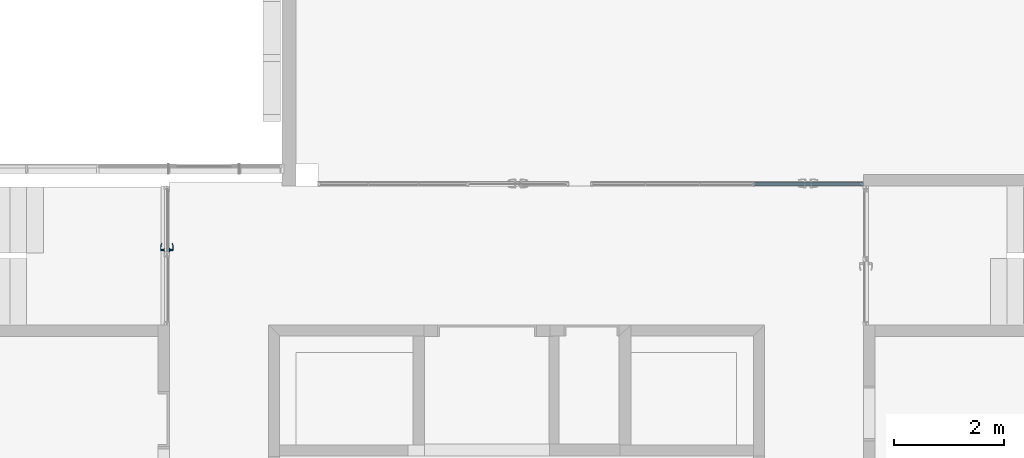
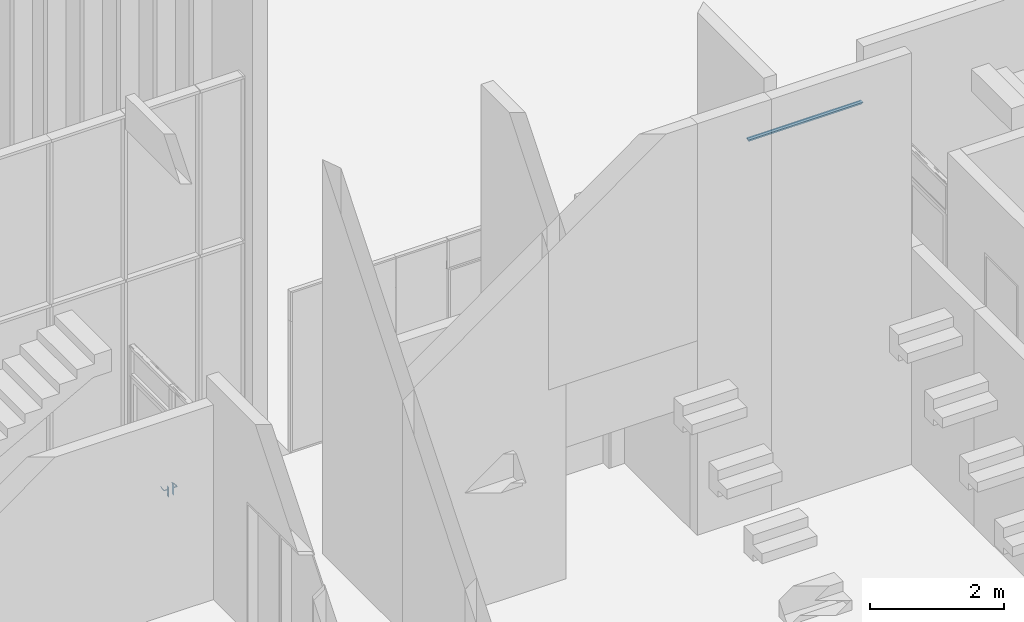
# One storey, part 49 of 62: 3 building element parts, 4 elements without a shape of their own.
"""IFC2X3 building model written with IfcOpenShell, lengths in millimetres."""

from ifc_helpers import new_model, entity, si_unit, converted_unit, derived_unit, money_unit, direction, frame, origin_with_axes, place, context, subcontext, project, spatial, open_shell, faceted_brep, surface_model, material, type_object, element, aggregate, save


model = new_model("IFC2X3")

# Units and contexts
model_context = context("Model", 3, precision=0.01, world=origin_with_axes(), true_north=direction((0.0, 1.0)))
body_context = subcontext(model_context, "Body", "Model", "MODEL_VIEW")
ifc_project = project(units=[si_unit("LENGTHUNIT", "METRE", prefix="MILLI"), si_unit("AREAUNIT", "SQUARE_METRE"), si_unit("VOLUMEUNIT", "CUBIC_METRE"), converted_unit("PLANEANGLEUNIT", "DEGREE", entity("IfcPlaneAngleMeasure", 0.0174532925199), si_unit("PLANEANGLEUNIT", "RADIAN"), dimensions=[0, 0, 0, 0, 0, 0, 0]), si_unit("SOLIDANGLEUNIT", "STERADIAN"), money_unit("EUR"), converted_unit("TIMEUNIT", "Year", entity("IfcTimeMeasure", 31556926.0), si_unit("TIMEUNIT", "SECOND"), dimensions=[0, 0, 1, 0, 0, 0, 0]), si_unit("MASSUNIT", "GRAM", prefix="KILO"), si_unit("THERMODYNAMICTEMPERATUREUNIT", "DEGREE_CELSIUS"), si_unit("LUMINOUSINTENSITYUNIT", "LUMEN"), si_unit("ENERGYUNIT", "JOULE", prefix="MEGA"), derived_unit("THERMALCONDUCTANCEUNIT", [(si_unit("POWERUNIT", "WATT"), 1), (si_unit("LENGTHUNIT", "METRE"), -1), (si_unit("THERMODYNAMICTEMPERATUREUNIT", "KELVIN"), -1)]), derived_unit("SPECIFICHEATCAPACITYUNIT", [(si_unit("ENERGYUNIT", "JOULE"), 1), (si_unit("MASSUNIT", "GRAM", prefix="KILO"), -1), (si_unit("THERMODYNAMICTEMPERATUREUNIT", "KELVIN"), -1)]), derived_unit("MASSDENSITYUNIT", [(si_unit("MASSUNIT", "GRAM", prefix="KILO"), 1), (si_unit("VOLUMEUNIT", "CUBIC_METRE"), -1)])], contexts=[model_context])

# Site, building, storey
site_placement = place(None, origin_with_axes())
site = spatial("IfcSite", under=ifc_project, at=site_placement, Name="Puškini 31, Narva", CompositionType="ELEMENT")
building_placement = place(site_placement, origin_with_axes())
building = spatial("IfcBuilding", under=site, at=building_placement, Name="Narva Riigigümnaasium", CompositionType="ELEMENT")
storey_placement = place(building_placement, frame((0.0, 0.0, 660.0), z_axis=(0.0, 0.0, 1.0), x_axis=(1.0, 0.0, 0.0)))
storey = spatial("IfcBuildingStorey", under=building, at=storey_placement, Name="2.korrus +0.66", CompositionType="ELEMENT", Elevation=660.0)

# Curtain wall, door, building element part
curtain_wall_type = type_object("IfcCurtainWallType", Name="Curtain Wall Type", PredefinedType="NOTDEFINED")
curtain_wall_1_placement = place(storey_placement, frame((34855.0128096, 223200.000065, -2.45869393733e-05), z_axis=(0.0, 0.0, 1.0), x_axis=(1.0, 0.0, 0.0)))
curtain_wall_1 = element("IfcCurtainWall", 1, at=curtain_wall_1_placement, inside=storey, type_object=curtain_wall_type, Name="G-SKLF-50")
door_style = type_object("IfcDoorStyle", Name="1132 x 2349 x 20", ConstructionType="NOTDEFINED", OperationType="NOTDEFINED", ParameterTakesPrecedence=False, Sizeable=False)
door_placement = place(curtain_wall_1_placement, frame((0.0, 0.0, 1200.00001229), z_axis=(0.0, 0.0, 1.0), x_axis=(4.28847155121e-06, 0.999999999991, 0.0)))
door = element("IfcDoor", 2, at=door_placement, type_object=door_style, Name="G-SKLF-50-U1", ObjectType="DOOR")
aggregate(curtain_wall_1, [door])
ifc_material_1 = material(Name="ET-07_Teras - Roostevaba")
building_element_part_1_placement = place(door_placement, origin_with_axes())
building_element_part_1 = element("IfcBuildingElementPart", 3, at=building_element_part_1_placement, material=ifc_material_1, Name="ET-07_Teras - Roostevaba", context=body_context, shape_type="SurfaceModel", body=[
    faceted_brep([(-588.500012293, 45.0, -120.000012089), (-531.500012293, 45.0, -120.000012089), (-531.500012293, 48.0, -120.000012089), (-588.500012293, 48.0, -120.000012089), (-588.500012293, 45.0, -310.000012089), (-531.500012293, 45.0, -310.000012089), (-531.500012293, 48.0, -310.000012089), (-588.500012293, 48.0, -310.000012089)], [[[0, 1, 2, 3]], [[0, 4, 5, 1]], [[1, 5, 6, 2]], [[3, 2, 6, 7]], [[4, 0, 3, 7]], [[5, 4, 7, 6]]]),
    surface_model("IfcShellBasedSurfaceModel", [(-560.000012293, 109.0, -190.000012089), (-568.660266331, 109.0, -185.000012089), (-568.660266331, 116.0, -185.000012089), (-560.000012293, 116.0, -190.000012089), (-535.000012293, 109.0, -190.000012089), (-535.000012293, 109.0, -170.000012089), (-560.000012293, 109.0, -170.000012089), (-568.660266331, 109.0, -175.000012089), (-568.660266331, 116.0, -175.000012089), (-560.000012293, 116.0, -170.000012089), (-535.000012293, 116.0, -170.000012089), (-535.000012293, 116.0, -190.000012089)], [open_shell([[[0, 1, 2, 3]], [[0, 4, 5, 6, 7, 1]], [[1, 7, 8, 2]], [[3, 2, 8, 9, 10, 11]], [[4, 0, 3, 11]], [[6, 5, 10, 9]], [[7, 6, 9, 8]]])]),
    surface_model("IfcShellBasedSurfaceModel", [(-535.000012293, 109.0, -170.000012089), (-521.901729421, 109.0, -170.39271117), (-521.596102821, 116.0, -170.39271117), (-535.000012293, 109.0, -190.000012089), (-521.901729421, 109.0, -189.607313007), (-494.890295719, 113.663544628, -171.178109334), (-535.000012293, 116.0, -170.000012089), (-535.000012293, 116.0, -190.000012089), (-495.804849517, 106.716818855, -188.821914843), (-495.804849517, 106.716818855, -171.178109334), (-494.890295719, 113.663544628, -188.821914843), (-521.596102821, 116.0, -189.607313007), (-470.006268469, 102.167832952, -188.03651668), (-470.006268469, 102.167832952, -171.963507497), (-468.48974778, 109.008415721, -171.963507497), (-468.48974778, 109.008415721, -188.03651668), (-444.702329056, 95.3876628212, -187.251118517), (-444.702329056, 95.3876628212, -172.74890566), (-442.595383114, 102.07004162, -172.74890566), (-442.595383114, 102.07004162, -187.251118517), (-436.829454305, 92.5221707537, -187.000012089), (-436.829454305, 92.5221707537, -173.000012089), (-434.538807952, 99.1376880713, -173.000012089), (-434.538807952, 99.1376880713, -187.000012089)], [open_shell([[[0, 1, 2]], [[0, 3, 4, 1]], [[1, 5, 2]], [[0, 2, 6]], [[4, 3, 7]], [[1, 4, 8, 9]], [[1, 9, 5]], [[2, 5, 10, 11]], [[6, 2, 11, 7]], [[4, 7, 11]], [[8, 4, 11]], [[9, 8, 12, 13]], [[9, 14, 5]], [[5, 14, 15, 10]], [[8, 11, 10]], [[12, 8, 10]], [[13, 12, 16, 17]], [[9, 13, 14]], [[14, 18, 19, 15]], [[12, 10, 15]], [[16, 12, 15]], [[17, 16, 20, 21]], [[13, 17, 18]], [[13, 18, 14]], [[18, 22, 23, 19]], [[16, 15, 19]], [[20, 16, 19]], [[21, 20, 23, 22]], [[17, 21, 22]], [[17, 22, 18]], [[20, 19, 23]]])]),
    faceted_brep([(-556.291808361, 58.0, -191.412690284), (-548.000012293, 58.0, -180.000012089), (-547.000012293, 48.0, -180.000012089), (-555.982791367, 48.0, -192.3637468), (-569.708216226, 58.0, -187.053435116), (-569.708216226, 58.0, -172.946589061), (-556.291808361, 58.0, -168.587333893), (-555.982791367, 48.0, -167.636277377), (-570.51723322, 48.0, -172.358803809), (-570.51723322, 48.0, -187.641220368)], [[[0, 1, 2, 3]], [[1, 0, 4, 5, 6]], [[1, 6, 7, 2]], [[2, 7, 8, 9, 3]], [[4, 0, 3, 9]], [[5, 4, 9, 8]], [[6, 5, 8, 7]]]),
    faceted_brep([(-553.819672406, 52.0, -294.021142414), (-540.000012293, 52.0, -275.000012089), (-538.000012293, 48.0, -275.000012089), (-553.201638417, 48.0, -295.923255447), (-576.180352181, 52.0, -286.755717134), (-576.180352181, 52.0, -263.244307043), (-553.819672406, 52.0, -255.978881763), (-553.201638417, 48.0, -254.07676873), (-577.79838617, 48.0, -262.068736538), (-577.79838617, 48.0, -287.931287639)], [[[0, 1, 2, 3]], [[1, 0, 4, 5, 6]], [[1, 6, 7, 2]], [[2, 7, 8, 9, 3]], [[4, 0, 3, 9]], [[5, 4, 9, 8]], [[6, 5, 8, 7]]]),
    faceted_brep([(-557.836893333, 54.0, -272.657407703), (-553.000012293, 54.0, -266.000012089), (-552.000012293, 52.0, -266.000012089), (-557.527876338, 52.0, -273.608464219), (-565.663131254, 54.0, -270.114508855), (-565.663131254, 54.0, -261.885515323), (-557.836893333, 54.0, -259.342616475), (-557.527876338, 52.0, -258.391559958), (-566.472148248, 52.0, -261.29773007), (-566.472148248, 52.0, -270.702294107)], [[[0, 1, 2, 3]], [[1, 0, 4, 5, 6]], [[1, 6, 7, 2]], [[2, 7, 8, 9, 3]], [[4, 0, 3, 9]], [[5, 4, 9, 8]], [[6, 5, 8, 7]]]),
    faceted_brep([(-560.000012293, 58.0, -170.000012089), (-550.48944713, 58.0, -176.909842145), (-550.489447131, 109.0, -176.909842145), (-560.000012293, 109.0, -170.000012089), (-569.510577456, 58.0, -176.909842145), (-565.877864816, 58.0, -188.090182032), (-554.122159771, 58.0, -188.090182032), (-554.122159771, 109.0, -188.090182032), (-565.877864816, 109.0, -188.090182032), (-569.510577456, 109.0, -176.909842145)], [[[0, 1, 2, 3]], [[0, 4, 5, 6, 1]], [[1, 6, 7, 2]], [[3, 2, 7, 8, 9]], [[4, 0, 3, 9]], [[5, 4, 9, 8]], [[6, 5, 8, 7]]]),
    faceted_brep([(-588.500012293, -45.0, -120.000012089), (-588.500012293, -48.0, -120.000012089), (-531.500012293, -48.0, -120.000012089), (-531.500012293, -45.0, -120.000012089), (-588.500012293, -45.0, -310.000012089), (-588.500012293, -48.0, -310.000012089), (-531.500012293, -48.0, -310.000012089), (-531.500012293, -45.0, -310.000012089)], [[[0, 1, 2, 3]], [[4, 5, 1, 0]], [[1, 5, 6, 2]], [[3, 2, 6, 7]], [[0, 3, 7, 4]], [[7, 6, 5, 4]]]),
    surface_model("IfcShellBasedSurfaceModel", [(-560.000012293, -109.0, -190.000012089), (-560.000012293, -116.0, -190.000012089), (-568.660266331, -116.0, -185.000012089), (-568.660266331, -109.0, -185.000012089), (-535.000012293, -109.0, -190.000012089), (-535.000012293, -116.0, -190.000012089), (-535.000012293, -116.0, -170.000012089), (-560.000012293, -116.0, -170.000012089), (-568.660266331, -116.0, -175.000012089), (-568.660266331, -109.0, -175.000012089), (-560.000012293, -109.0, -170.000012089), (-535.000012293, -109.0, -170.000012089)], [open_shell([[[0, 1, 2, 3]], [[4, 5, 1, 0]], [[1, 5, 6, 7, 8, 2]], [[3, 2, 8, 9]], [[0, 3, 9, 10, 11, 4]], [[10, 7, 6, 11]], [[9, 8, 7, 10]]])]),
    surface_model("IfcShellBasedSurfaceModel", [(-535.000012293, -109.0, -170.000012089), (-521.596102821, -116.0, -170.39271117), (-521.901729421, -109.0, -170.39271117), (-535.000012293, -116.0, -170.000012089), (-494.890295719, -113.663544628, -171.178109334), (-521.901729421, -109.0, -189.607313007), (-535.000012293, -109.0, -190.000012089), (-535.000012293, -116.0, -190.000012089), (-521.596102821, -116.0, -189.607313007), (-494.890295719, -113.663544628, -188.821914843), (-495.804849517, -106.716818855, -171.178109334), (-495.804849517, -106.716818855, -188.821914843), (-468.48974778, -109.008415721, -188.03651668), (-468.48974778, -109.008415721, -171.963507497), (-470.006268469, -102.167832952, -171.963507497), (-470.006268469, -102.167832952, -188.03651668), (-442.595383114, -102.07004162, -187.251118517), (-442.595383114, -102.07004162, -172.74890566), (-444.702329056, -95.3876628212, -172.74890566), (-444.702329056, -95.3876628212, -187.251118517), (-434.538807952, -99.1376880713, -187.000012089), (-434.538807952, -99.1376880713, -173.000012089), (-436.829454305, -92.5221707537, -173.000012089), (-436.829454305, -92.5221707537, -187.000012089)], [open_shell([[[0, 1, 2]], [[0, 3, 1]], [[2, 1, 4]], [[0, 2, 5, 6]], [[3, 7, 8, 1]], [[1, 8, 9, 4]], [[2, 4, 10]], [[2, 10, 11, 5]], [[5, 7, 6]], [[5, 8, 7]], [[11, 9, 8]], [[4, 9, 12, 13]], [[10, 4, 13]], [[10, 14, 15, 11]], [[11, 8, 5]], [[15, 9, 11]], [[15, 12, 9]], [[13, 12, 16, 17]], [[10, 13, 14]], [[14, 18, 19, 15]], [[19, 12, 15]], [[19, 16, 12]], [[17, 16, 20, 21]], [[14, 13, 17]], [[14, 17, 18]], [[18, 22, 23, 19]], [[23, 16, 19]], [[23, 20, 16]], [[22, 21, 20, 23]], [[18, 17, 21]], [[18, 21, 22]]])]),
    faceted_brep([(-556.291808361, -58.0, -191.412690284), (-555.982791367, -48.0, -192.3637468), (-547.000012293, -48.0, -180.000012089), (-548.000012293, -58.0, -180.000012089), (-569.708216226, -58.0, -187.053435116), (-570.51723322, -48.0, -187.641220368), (-570.51723322, -48.0, -172.358803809), (-555.982791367, -48.0, -167.636277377), (-556.291808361, -58.0, -168.587333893), (-569.708216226, -58.0, -172.946589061)], [[[0, 1, 2, 3]], [[4, 5, 1, 0]], [[2, 1, 5, 6, 7]], [[3, 2, 7, 8]], [[3, 8, 9, 4, 0]], [[9, 6, 5, 4]], [[8, 7, 6, 9]]]),
    faceted_brep([(-553.819672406, -52.0, -294.021142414), (-553.201638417, -48.0, -295.923255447), (-538.000012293, -48.0, -275.000012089), (-540.000012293, -52.0, -275.000012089), (-576.180352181, -52.0, -286.755717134), (-577.79838617, -48.0, -287.931287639), (-577.79838617, -48.0, -262.068736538), (-553.201638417, -48.0, -254.07676873), (-553.819672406, -52.0, -255.978881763), (-576.180352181, -52.0, -263.244307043)], [[[0, 1, 2, 3]], [[4, 5, 1, 0]], [[2, 1, 5, 6, 7]], [[3, 2, 7, 8]], [[3, 8, 9, 4, 0]], [[9, 6, 5, 4]], [[8, 7, 6, 9]]]),
    faceted_brep([(-557.836893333, -54.0, -272.657407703), (-557.527876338, -52.0, -273.608464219), (-552.000012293, -52.0, -266.000012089), (-553.000012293, -54.0, -266.000012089), (-565.663131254, -54.0, -270.114508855), (-566.472148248, -52.0, -270.702294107), (-566.472148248, -52.0, -261.29773007), (-557.527876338, -52.0, -258.391559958), (-557.836893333, -54.0, -259.342616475), (-565.663131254, -54.0, -261.885515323)], [[[0, 1, 2, 3]], [[4, 5, 1, 0]], [[2, 1, 5, 6, 7]], [[3, 2, 7, 8]], [[3, 8, 9, 4, 0]], [[9, 6, 5, 4]], [[8, 7, 6, 9]]]),
    faceted_brep([(-560.000012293, -58.0, -170.000012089), (-560.000012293, -109.0, -170.000012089), (-550.489447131, -109.0, -176.909842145), (-550.489447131, -58.0, -176.909842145), (-569.510577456, -58.0, -176.909842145), (-569.510577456, -109.0, -176.909842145), (-565.877864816, -109.0, -188.090182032), (-554.122159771, -109.0, -188.090182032), (-554.122159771, -58.0, -188.090182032), (-565.877864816, -58.0, -188.090182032)], [[[0, 1, 2, 3]], [[4, 5, 1, 0]], [[1, 5, 6, 7, 2]], [[3, 2, 7, 8]], [[0, 3, 8, 9, 4]], [[9, 6, 5, 4]], [[8, 7, 6, 9]]]),
])
aggregate(door, [building_element_part_1])

# Curtain wall, member, building element parts
curtain_wall_2_placement = place(storey_placement, frame((45089.2571373, 223837.000216, -1.99739158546e-06), z_axis=(0.0, 0.0, 1.0), x_axis=(1.0, 0.0, 0.0)))
curtain_wall_2 = element("IfcCurtainWall", 4, at=curtain_wall_2_placement, inside=storey, type_object=curtain_wall_type, Name="G-SKLF-52")
member_type = type_object("IfcMemberType", Name="30 x 37", PredefinedType="MULLION")
member_placement = place(curtain_wall_2_placement, frame((431.542856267, 0.0, 2949.99994304), z_axis=(1.0, 0.0, 0.0), x_axis=(0.0, 0.0, -1.0)))
member = element("IfcMember", 5, at=member_placement, type_object=member_type, Name="G-SKLF-61-raam", ObjectType="MULLION")
aggregate(curtain_wall_2, [member])
ifc_material_2 = material(Name="Klaasvill")
building_element_part_2_placement = place(member_placement, origin_with_axes())
building_element_part_2 = element("IfcBuildingElementPart", 6, at=building_element_part_2_placement, material=ifc_material_2, Name="Klaasvill", context=body_context, shape_type="Brep", body=[
    faceted_brep([(7.49999990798, 20.000000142, 0.0), (13.8499999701, 20.000000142, 0.0), (13.8499999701, 20.000000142, 1965.35000003), (7.49999990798, 20.000000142, 1971.70000009), (7.49999990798, 34.0161444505, 0.0), (13.8499999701, 34.0161444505, 0.0), (13.8499999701, 34.0161444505, 1965.35000003), (7.49999990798, 34.0161444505, 1971.70000009)], [[[0, 1, 2, 3]], [[0, 4, 5, 1]], [[1, 5, 6, 2]], [[3, 2, 6, 7]], [[4, 0, 3, 7]], [[5, 4, 7, 6]]]),
    faceted_brep([(24.987414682, 34.0161444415, 0.0), (25.004489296, 32.0307503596, 0.0), (25.004489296, 32.0307503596, 1954.1955107), (24.987414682, 34.0161444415, 1954.21258532), (28.5126239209, 34.0161444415, 0.0), (28.7655837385, 33.0385325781, 0.0), (28.4955493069, 32.0307503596, 0.0), (27.75780152, 31.2930025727, 0.0), (26.7500193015, 31.0229681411, 0.0), (25.742237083, 31.2930025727, 0.0), (25.742237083, 31.2930025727, 1953.45776292), (26.7500193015, 31.0229681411, 1952.4499807), (27.75780152, 31.2930025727, 1951.44219848), (28.4955493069, 32.0307503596, 1950.70445069), (28.7655837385, 33.0385325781, 1950.43441626), (28.5126239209, 34.0161444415, 1950.68737608)], [[[0, 1, 2, 3]], [[0, 4, 5, 6, 7, 8, 9, 1]], [[1, 9, 10, 2]], [[3, 2, 10, 11, 12, 13, 14, 15]], [[4, 0, 3, 15]], [[5, 4, 15, 14]], [[6, 5, 14, 13]], [[7, 6, 13, 12]], [[8, 7, 12, 11]], [[9, 8, 11, 10]]]),
    faceted_brep([(7.49999990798, -19.9999997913, 0.0), (7.49999990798, -34.0161445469, 0.0), (7.49999990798, -34.0161445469, 1971.70000009), (7.49999990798, -19.9999997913, 1971.70000009), (13.8499999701, -19.9999997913, 0.0), (13.8499999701, -34.0161445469, 0.0), (13.8499999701, -34.0161445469, 1965.35000003), (13.8499999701, -19.9999997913, 1965.35000003)], [[[0, 1, 2, 3]], [[0, 4, 5, 1]], [[1, 5, 6, 2]], [[3, 2, 6, 7]], [[4, 0, 3, 7]], [[5, 4, 7, 6]]]),
    faceted_brep([(25.004489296, -32.0307503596, 0.0), (24.987414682, -34.0161444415, 0.0), (24.987414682, -34.0161444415, 1954.21258532), (25.004489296, -32.0307503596, 1954.1955107), (25.742237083, -31.2930025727, 0.0), (26.7500193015, -31.0229681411, 0.0), (27.75780152, -31.2930025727, 0.0), (28.4955493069, -32.0307503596, 0.0), (28.7655837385, -33.0385325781, 0.0), (28.5126239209, -34.0161444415, 0.0), (28.5126239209, -34.0161444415, 1950.68737608), (28.7655837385, -33.0385325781, 1950.43441626), (28.4955493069, -32.0307503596, 1950.70445069), (27.75780152, -31.2930025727, 1951.44219848), (26.7500193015, -31.0229681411, 1952.4499807), (25.742237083, -31.2930025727, 1953.45776292)], [[[0, 1, 2, 3]], [[0, 4, 5, 6, 7, 8, 9, 1]], [[1, 9, 10, 2]], [[3, 2, 10, 11, 12, 13, 14, 15]], [[4, 0, 3, 15]], [[5, 4, 15, 14]], [[6, 5, 14, 13]], [[7, 6, 13, 12]], [[8, 7, 12, 11]], [[9, 8, 11, 10]]]),
])
ifc_material_3 = material(Name="Teras RAL7012")
building_element_part_3_placement = place(member_placement, origin_with_axes())
building_element_part_3 = element("IfcBuildingElementPart", 7, at=building_element_part_3_placement, material=ifc_material_3, Name="Teras RAL7012", context=body_context, shape_type="Brep", body=[
    faceted_brep([(0.0, -17.0000000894, 0.0), (29.5999996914, -17.0000000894, 0.0), (29.5999996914, -17.0000000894, 1949.60000031), (0.0, -17.0000000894, 1979.2), (0.0, 17.0000000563, 0.0), (29.5999996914, 17.0000000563, 0.0), (1.9999999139, 15.0000001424, 0.0), (1.9999999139, -15.0000001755, 0.0), (18.7999996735, -15.0000001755, 0.0), (18.7999996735, 15.0000001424, 0.0), (29.5999996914, 17.0000000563, 1949.60000031), (0.0, 17.0000000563, 1979.2), (1.9999999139, 15.0000001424, 1977.20000009), (18.7999996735, 15.0000001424, 1960.40000033), (18.7999996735, -15.0000001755, 1960.40000033), (1.9999999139, -15.0000001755, 1977.20000009)], [[[0, 1, 2, 3]], [[0, 4, 5, 1], [6, 7, 8, 9]], [[1, 5, 10, 2]], [[3, 2, 10, 11], [12, 13, 14, 15]], [[4, 0, 3, 11]], [[5, 4, 11, 10]], [[7, 6, 12, 15]], [[8, 7, 15, 14]], [[9, 8, 14, 13]], [[6, 9, 13, 12]]]),
    faceted_brep([(0.0, 17.0, 0.0), (29.5999996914, 17.0000000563, 0.0), (29.5999996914, 17.0000000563, 1949.60000031), (0.0, 17.0, 1979.2), (0.0, 37.0, 0.0), (30.0000193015, 37.0, 0.0), (30.0000193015, 34.0161444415, 0.0), (28.5126239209, 34.0161444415, 0.0), (24.987414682, 34.0161444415, 0.0), (13.8499999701, 34.0161444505, 0.0), (7.49999999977, 34.0161444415, 0.0), (7.49999999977, 20.0, 0.0), (13.8499999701, 20.000000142, 0.0), (30.0000193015, 20.0, 0.0), (30.0000193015, 17.0, 0.0), (30.0000193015, 17.0, 1949.1999807), (30.0000193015, 20.0, 1949.1999807), (13.8499999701, 20.000000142, 1965.35000003), (7.49999999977, 20.0, 1971.7), (7.49999999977, 34.0161444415, 1971.7), (13.8499999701, 34.0161444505, 1965.35000003), (24.987414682, 34.0161444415, 1954.21258532), (28.5126239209, 34.0161444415, 1950.68737608), (30.0000193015, 34.0161444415, 1949.1999807), (30.0000193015, 37.0, 1949.1999807), (0.0, 37.0, 1979.2)], [[[0, 1, 2, 3]], [[0, 4, 5, 6, 7, 8, 9, 10, 11, 12, 13, 14, 1]], [[1, 14, 15, 2]], [[3, 2, 15, 16, 17, 18, 19, 20, 21, 22, 23, 24, 25]], [[4, 0, 3, 25]], [[5, 4, 25, 24]], [[6, 5, 24, 23]], [[7, 6, 23, 22]], [[8, 7, 22, 21]], [[9, 8, 21, 20]], [[10, 9, 20, 19]], [[11, 10, 19, 18]], [[12, 11, 18, 17]], [[13, 12, 17, 16]], [[14, 13, 16, 15]]]),
    faceted_brep([(0.0, -17.0, 0.0), (0.0, -37.0, 0.0), (0.0, -37.0, 1979.2), (0.0, -17.0, 1979.2), (29.5999996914, -17.0000000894, 0.0), (30.0000193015, -17.0, 0.0), (30.0000193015, -20.0, 0.0), (13.8499999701, -19.9999997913, 0.0), (7.49999999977, -20.0, 0.0), (7.49999999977, -34.0161444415, 0.0), (13.8499999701, -34.0161445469, 0.0), (24.987414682, -34.0161444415, 0.0), (28.5126239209, -34.0161444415, 0.0), (30.0000193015, -34.0161444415, 0.0), (30.0000193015, -37.0, 0.0), (30.0000193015, -37.0, 1949.1999807), (30.0000193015, -34.0161444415, 1949.1999807), (28.5126239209, -34.0161444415, 1950.68737608), (24.987414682, -34.0161444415, 1954.21258532), (13.8499999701, -34.0161445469, 1965.35000003), (7.49999999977, -34.0161444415, 1971.7), (7.49999999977, -20.0, 1971.7), (13.8499999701, -19.9999997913, 1965.35000003), (30.0000193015, -20.0, 1949.1999807), (30.0000193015, -17.0, 1949.1999807), (29.5999996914, -17.0000000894, 1949.60000031)], [[[0, 1, 2, 3]], [[0, 4, 5, 6, 7, 8, 9, 10, 11, 12, 13, 14, 1]], [[1, 14, 15, 2]], [[3, 2, 15, 16, 17, 18, 19, 20, 21, 22, 23, 24, 25]], [[4, 0, 3, 25]], [[5, 4, 25, 24]], [[6, 5, 24, 23]], [[7, 6, 23, 22]], [[8, 7, 22, 21]], [[9, 8, 21, 20]], [[10, 9, 20, 19]], [[11, 10, 19, 18]], [[12, 11, 18, 17]], [[13, 12, 17, 16]], [[14, 13, 16, 15]]]),
])
aggregate(member, [building_element_part_2, building_element_part_3])

save(model, "model.ifc")
